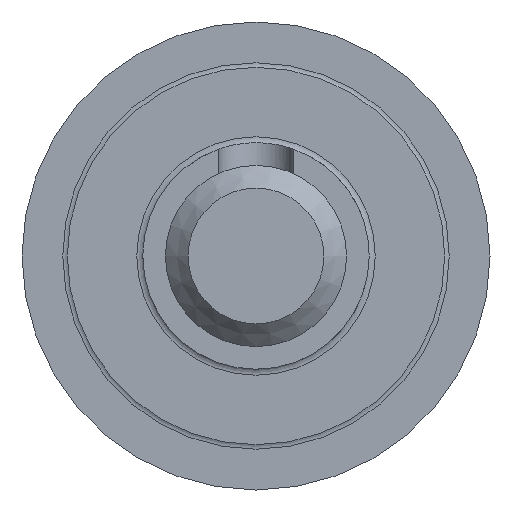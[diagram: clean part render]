
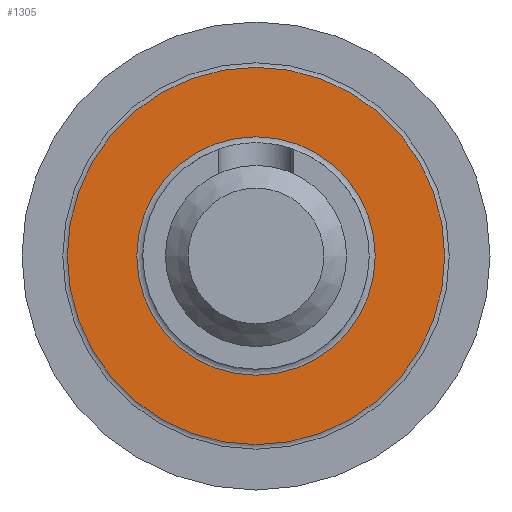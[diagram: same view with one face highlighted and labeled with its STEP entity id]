
A CAD part, left-side view. The second image highlights one B-rep face of the part: STEP entity #1305.
In plain terms, the highlighted planar face has unit normal (-1, 0, 0).
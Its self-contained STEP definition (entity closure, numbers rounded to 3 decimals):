
#15=FACE_BOUND('',#197,.T.);
#130=FACE_OUTER_BOUND('',#196,.T.);
#196=EDGE_LOOP('',(#1087,#1088));
#197=EDGE_LOOP('',(#1089,#1090));
#405=CIRCLE('',#1456,7.9);
#406=CIRCLE('',#1457,7.9);
#407=CIRCLE('',#1459,12.5);
#408=CIRCLE('',#1460,12.5);
#562=VERTEX_POINT('',#2419);
#563=VERTEX_POINT('',#2421);
#564=VERTEX_POINT('',#2425);
#565=VERTEX_POINT('',#2426);
#752=EDGE_CURVE('',#563,#562,#405,.T.);
#753=EDGE_CURVE('',#562,#563,#406,.T.);
#754=EDGE_CURVE('',#564,#565,#407,.T.);
#755=EDGE_CURVE('',#565,#564,#408,.T.);
#1087=ORIENTED_EDGE('',*,*,#754,.F.);
#1088=ORIENTED_EDGE('',*,*,#755,.F.);
#1089=ORIENTED_EDGE('',*,*,#752,.T.);
#1090=ORIENTED_EDGE('',*,*,#753,.T.);
#1257=PLANE('',#1458);
#1305=ADVANCED_FACE('',(#130,#15),#1257,.T.);
#1456=AXIS2_PLACEMENT_3D('',#2422,#1805,#1806);
#1457=AXIS2_PLACEMENT_3D('',#2423,#1807,#1808);
#1458=AXIS2_PLACEMENT_3D('',#2424,#1809,#1810);
#1459=AXIS2_PLACEMENT_3D('',#2427,#1811,#1812);
#1460=AXIS2_PLACEMENT_3D('',#2428,#1813,#1814);
#1805=DIRECTION('center_axis',(1.,0.,0.));
#1806=DIRECTION('ref_axis',(0.,1.,0.));
#1807=DIRECTION('center_axis',(1.,0.,0.));
#1808=DIRECTION('ref_axis',(0.,1.,0.));
#1809=DIRECTION('center_axis',(-1.,0.,0.));
#1810=DIRECTION('ref_axis',(0.,0.,1.));
#1811=DIRECTION('center_axis',(1.,0.,0.));
#1812=DIRECTION('ref_axis',(0.,1.,0.));
#1813=DIRECTION('center_axis',(1.,0.,0.));
#1814=DIRECTION('ref_axis',(0.,1.,0.));
#2419=CARTESIAN_POINT('',(48.,0.,7.9));
#2421=CARTESIAN_POINT('',(48.,7.9,0.));
#2422=CARTESIAN_POINT('Origin',(48.,0.,0.));
#2423=CARTESIAN_POINT('Origin',(48.,0.,0.));
#2424=CARTESIAN_POINT('Origin',(48.,10.2,0.));
#2425=CARTESIAN_POINT('',(48.,12.5,0.));
#2426=CARTESIAN_POINT('',(48.,-12.5,0.));
#2427=CARTESIAN_POINT('Origin',(48.,0.,0.));
#2428=CARTESIAN_POINT('Origin',(48.,0.,0.));
